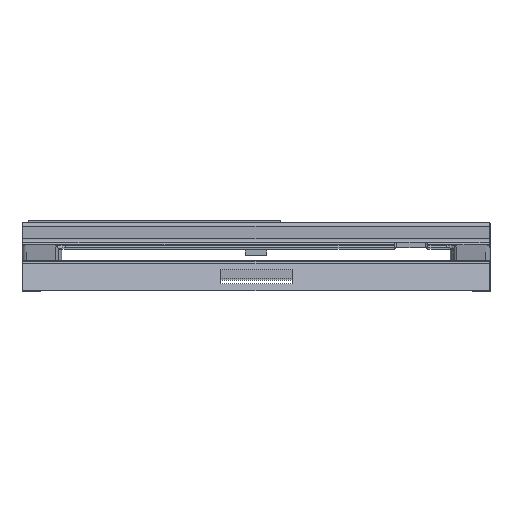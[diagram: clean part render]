
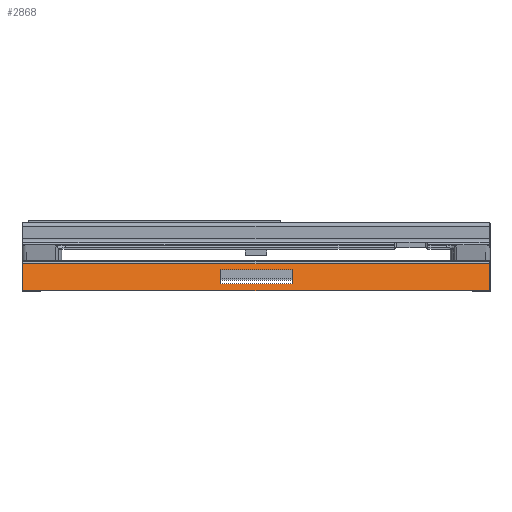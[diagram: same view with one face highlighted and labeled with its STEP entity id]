
A CAD part, top view. The second image highlights one B-rep face of the part: STEP entity #2868.
In plain terms, the highlighted planar face has unit normal (0, 0.259, 0.966).
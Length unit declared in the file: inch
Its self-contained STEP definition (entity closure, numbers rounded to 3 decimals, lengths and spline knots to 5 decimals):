
#2678 = VERTEX_POINT ( 'NONE', #15021 ) ;
#2685 = VERTEX_POINT ( 'NONE', #15050 ) ;
#2689 = VERTEX_POINT ( 'NONE', #15003 ) ;
#2738 = VERTEX_POINT ( 'NONE', #15135 ) ;
#2774 = EDGE_CURVE ( 'NONE', #2678, #2738, #15203, .T. ) ;
#2783 = EDGE_CURVE ( 'NONE', #2689, #2685, #15179, .T. ) ;
#2803 = EDGE_CURVE ( 'NONE', #2869, #2867, #15270, .T. ) ;
#2809 = ORIENTED_EDGE ( 'NONE', *, *, #2783, .T. ) ;
#2810 = ORIENTED_EDGE ( 'NONE', *, *, #2821, .F. ) ;
#2811 = EDGE_CURVE ( 'NONE', #2678, #2685, #15233, .T. ) ;
#2821 = EDGE_CURVE ( 'NONE', #2689, #2738, #15286, .T. ) ;
#2822 = ORIENTED_EDGE ( 'NONE', *, *, #2875, .T. ) ;
#2826 = EDGE_CURVE ( 'NONE', #2866, #2870, #15272, .T. ) ;
#2827 = ORIENTED_EDGE ( 'NONE', *, *, #2854, .F. ) ;
#2854 = EDGE_CURVE ( 'NONE', #2866, #2867, #15316, .T. ) ;
#2861 = ORIENTED_EDGE ( 'NONE', *, *, #2803, .T. ) ;
#2862 = ORIENTED_EDGE ( 'NONE', *, *, #2774, .T. ) ;
#2863 = EDGE_LOOP ( 'NONE', ( #2862, #2810, #2809, #2873 ) ) ;
#2866 = VERTEX_POINT ( 'NONE', #15318 ) ;
#2867 = VERTEX_POINT ( 'NONE', #15354 ) ;
#2868 = ADVANCED_FACE ( 'NONE', ( #15383, #15342 ), #15385, .F. ) ;
#2869 = VERTEX_POINT ( 'NONE', #15382 ) ;
#2870 = VERTEX_POINT ( 'NONE', #15376 ) ;
#2871 = ORIENTED_EDGE ( 'NONE', *, *, #2826, .T. ) ;
#2873 = ORIENTED_EDGE ( 'NONE', *, *, #2811, .F. ) ;
#2875 = EDGE_CURVE ( 'NONE', #2870, #2869, #15375, .T. ) ;
#2883 = EDGE_LOOP ( 'NONE', ( #2827, #2871, #2822, #2861 ) ) ;
#15003 = CARTESIAN_POINT ( 'NONE',  ( 1., 1.19426, 3.18 ) ) ;
#15021 = CARTESIAN_POINT ( 'NONE',  ( -1., 0.8, 3.28564 ) ) ;
#15050 = CARTESIAN_POINT ( 'NONE',  ( 1., 0.8, 3.28564 ) ) ;
#15135 = CARTESIAN_POINT ( 'NONE',  ( -1., 1.19426, 3.18 ) ) ;
#15179 = LINE ( 'NONE', #15182, #15240 ) ;
#15181 = DIRECTION ( 'NONE',  ( 0., -0.966, 0.259 ) ) ;
#15182 = CARTESIAN_POINT ( 'NONE',  ( 1., 0., 3.5 ) ) ;
#15200 = DIRECTION ( 'NONE',  ( 0., 0.966, -0.259 ) ) ;
#15201 = VECTOR ( 'NONE', #15200, 39.37008 ) ;
#15202 = CARTESIAN_POINT ( 'NONE',  ( -1., 0., 3.5 ) ) ;
#15203 = LINE ( 'NONE', #15202, #15201 ) ;
#15214 = CARTESIAN_POINT ( 'NONE',  ( -6.475, 0., 3.5 ) ) ;
#15233 = LINE ( 'NONE', #15267, #15263 ) ;
#15240 = VECTOR ( 'NONE', #15181, 39.37008 ) ;
#15260 = DIRECTION ( 'NONE',  ( 1., 0., 0. ) ) ;
#15263 = VECTOR ( 'NONE', #15260, 39.37008 ) ;
#15264 = DIRECTION ( 'NONE',  ( 0., -0.966, 0.259 ) ) ;
#15265 = VECTOR ( 'NONE', #15264, 39.37008 ) ;
#15267 = CARTESIAN_POINT ( 'NONE',  ( -6.97, 0.8, 3.28564 ) ) ;
#15270 = LINE ( 'NONE', #15214, #15265 ) ;
#15272 = LINE ( 'NONE', #15279, #15278 ) ;
#15278 = VECTOR ( 'NONE', #15315, 39.37008 ) ;
#15279 = CARTESIAN_POINT ( 'NONE',  ( 6.475, 0., 3.5 ) ) ;
#15280 = DIRECTION ( 'NONE',  ( -1., 0., 0. ) ) ;
#15281 = VECTOR ( 'NONE', #15280, 39.37008 ) ;
#15282 = CARTESIAN_POINT ( 'NONE',  ( -6.97, 1.19426, 3.18 ) ) ;
#15286 = LINE ( 'NONE', #15282, #15281 ) ;
#15315 = DIRECTION ( 'NONE',  ( 0., 0.966, -0.259 ) ) ;
#15316 = LINE ( 'NONE', #15336, #15331 ) ;
#15318 = CARTESIAN_POINT ( 'NONE',  ( 6.475, 0.6, 3.33923 ) ) ;
#15324 = DIRECTION ( 'NONE',  ( -1., 0., 0. ) ) ;
#15331 = VECTOR ( 'NONE', #15324, 39.37008 ) ;
#15336 = CARTESIAN_POINT ( 'NONE',  ( -6.97, 0.6, 3.33923 ) ) ;
#15340 = AXIS2_PLACEMENT_3D ( 'NONE', #15381, #15380, #15379 ) ;
#15342 = FACE_BOUND ( 'NONE', #2863, .T. ) ;
#15354 = CARTESIAN_POINT ( 'NONE',  ( -6.475, 0.6, 3.33923 ) ) ;
#15371 = DIRECTION ( 'NONE',  ( -1., 0., 0. ) ) ;
#15372 = VECTOR ( 'NONE', #15371, 39.37008 ) ;
#15374 = CARTESIAN_POINT ( 'NONE',  ( -6.97, 1.35083, 3.13805 ) ) ;
#15375 = LINE ( 'NONE', #15374, #15372 ) ;
#15376 = CARTESIAN_POINT ( 'NONE',  ( 6.475, 1.35083, 3.13805 ) ) ;
#15379 = DIRECTION ( 'NONE',  ( 0., 0.966, -0.259 ) ) ;
#15380 = DIRECTION ( 'NONE',  ( 0., -0.259, -0.966 ) ) ;
#15381 = CARTESIAN_POINT ( 'NONE',  ( -6.97, 0., 3.5 ) ) ;
#15382 = CARTESIAN_POINT ( 'NONE',  ( -6.475, 1.35083, 3.13805 ) ) ;
#15383 = FACE_OUTER_BOUND ( 'NONE', #2883, .T. ) ;
#15385 = PLANE ( 'NONE',  #15340 ) ;
